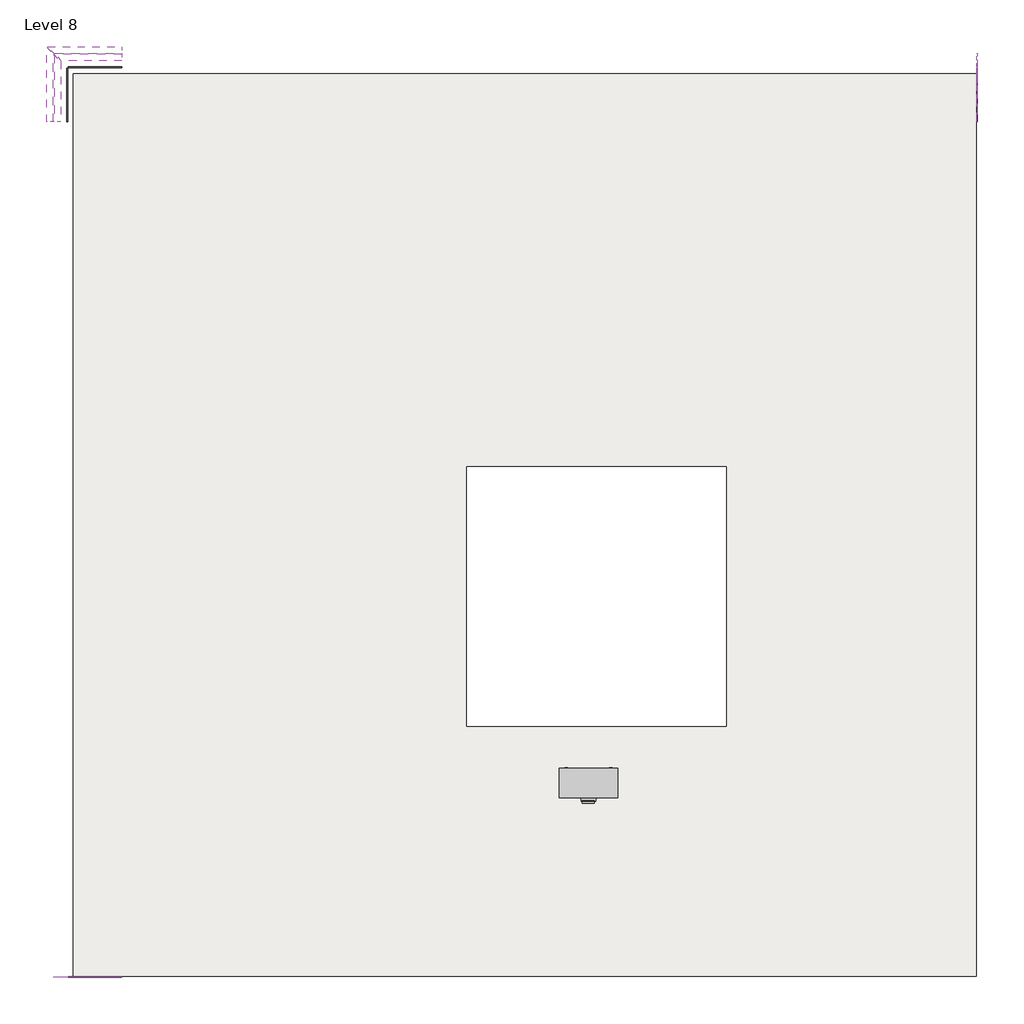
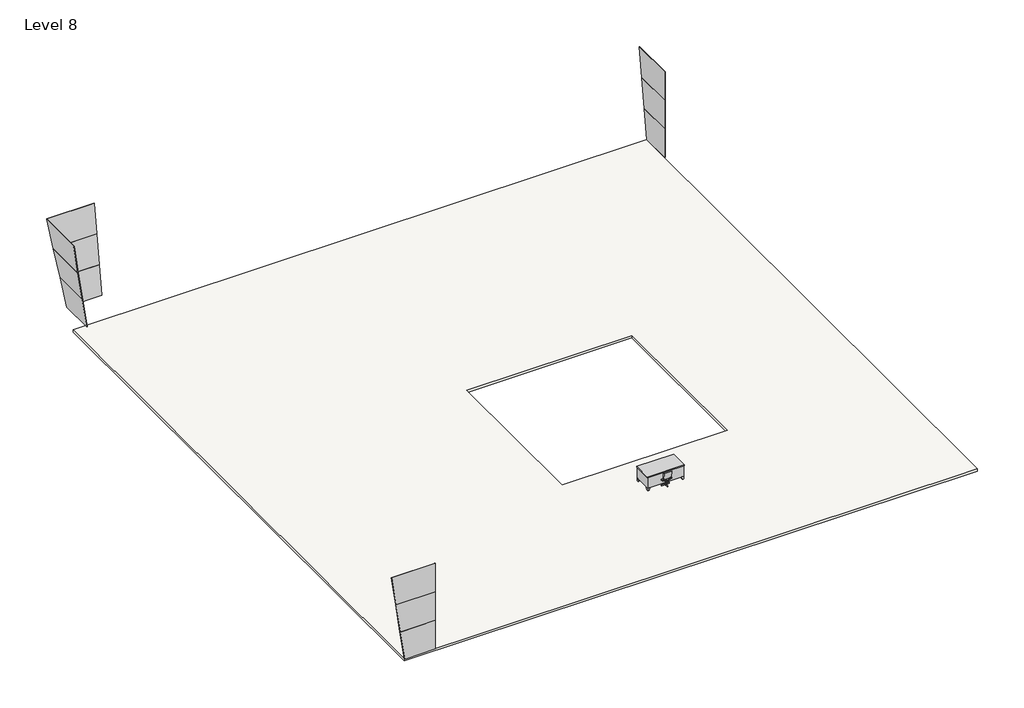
# One storey, incomplete: 12 plates, 2 furniture elements, 1 slab.
"""IFC4 building model written with IfcOpenShell, lengths in millimetres."""

from ifc_helpers import new_model, si_unit, frame, origin, place, context, project, spatial, polyline, outline, extrude, transform, mapped, element, save
from components import chair_desk_chair_desk_ccc35c8f, furniture_2fc54265, system_panel_glazed_32967763, system_panel_glazed_55f28718, system_panel_glazed_49c9d228, system_panel_glazed_35b88479, system_panel_glazed_5791ef04, system_panel_glazed_a518d741, system_panel_glazed_463c4953, system_panel_glazed_172627b4, system_panel_glazed_cb80e230, system_panel_glazed_8565c029, system_panel_glazed_069080fe, system_panel_glazed_b5e7a883

model = new_model("IFC4")

# Units and contexts
model_context = context("Model", 3, world=origin())
ifc_project = project(units=[si_unit("LENGTHUNIT", "METRE", prefix="MILLI")], contexts=[model_context])

# Site, building, storey
site = spatial("IfcSite", under=ifc_project)
building = spatial("IfcBuilding", under=site)
storey = spatial("IfcBuildingStorey", under=building, Name="Level 8", Elevation=32004.0)

# Furniture
placement = place(None, origin())
chair_desk_chair_desk_shape = chair_desk_chair_desk_ccc35c8f(model_context)
element("IfcFurniture", 1, ObjectType="Chair-Desk : Chair-Desk", at=placement, inside=storey, context=model_context, shape_type="MappedRepresentation", body=[
    mapped(chair_desk_chair_desk_shape, transform((-3928.2026957, -6947.9708988, 32004.0), x_axis=(1.0, 0.0, 0.0), y_axis=(0.0, 1.0, 0.0), z_axis=(0.0, 0.0, 1.0))),
])
furniture_shape = furniture_2fc54265(model_context)
element("IfcFurniture", 2, ObjectType="Desk : 72\" x 36\"", at=placement, inside=storey, context=model_context, shape_type="MappedRepresentation", body=[
    mapped(furniture_shape, transform((-4842.6026957, -6820.9708988, 32004.0), x_axis=(1.0, 0.0, 0.0), y_axis=(0.0, 1.0, 0.0), z_axis=(0.0, 0.0, 1.0))),
])

# Plates
system_panel_glazed_shape = system_panel_glazed_32967763(model_context)
element("IfcPlate", 3, ObjectType="System Panel : Glazed", at=placement, inside=storey, context=model_context, shape_type="MappedRepresentation", body=[
    mapped(system_panel_glazed_shape, transform((-19886.2242792, 16597.6269134, 33186.2347954), x_axis=(1.0, 0.0, 0.0), y_axis=(0.0, 0.9898065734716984, -0.1424182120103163), z_axis=(0.0, 0.1424182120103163, 0.9898065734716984))),
])
system_panel_glazed_2_shape = system_panel_glazed_55f28718(model_context)
element("IfcPlate", 4, ObjectType="System Panel : Glazed", at=placement, inside=storey, context=model_context, shape_type="MappedRepresentation", body=[
    mapped(system_panel_glazed_2_shape, transform((-19994.7469567, 16814.6722685, 34694.7000133), x_axis=(1.0, 0.0, 0.0), y_axis=(0.0, 0.9898065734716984, -0.1424182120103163), z_axis=(0.0, 0.1424182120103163, 0.9898065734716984))),
])
system_panel_glazed_3_shape = system_panel_glazed_49c9d228(model_context)
element("IfcPlate", 5, ObjectType="System Panel : Glazed", at=placement, inside=storey, context=model_context, shape_type="MappedRepresentation", body=[
    mapped(system_panel_glazed_3_shape, transform((-20103.2696343, 17031.7176236, 36203.1652313), x_axis=(1.0, 0.0, 0.0), y_axis=(0.0, 0.9898065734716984, -0.1424182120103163), z_axis=(0.0, 0.1424182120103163, 0.9898065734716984))),
])
system_panel_glazed_4_shape = system_panel_glazed_35b88479(model_context)
element("IfcPlate", 6, ObjectType="System Panel : Glazed", at=placement, inside=storey, context=model_context, shape_type="MappedRepresentation", body=[
    mapped(system_panel_glazed_4_shape, transform((-20641.2005079, 15842.650685, 33186.2347954), x_axis=(0.0, 1.0, 0.0), y_axis=(-0.9898065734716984, 0.0, -0.1424182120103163), z_axis=(-0.1424182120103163, 0.0, 0.9898065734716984))),
])
system_panel_glazed_5_shape = system_panel_glazed_5791ef04(model_context)
element("IfcPlate", 7, ObjectType="System Panel : Glazed", at=placement, inside=storey, context=model_context, shape_type="MappedRepresentation", body=[
    mapped(system_panel_glazed_5_shape, transform((-20858.245863, 15951.1733626, 34694.7000133), x_axis=(0.0, 1.0, 0.0), y_axis=(-0.9898065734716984, 0.0, -0.1424182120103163), z_axis=(-0.1424182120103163, 0.0, 0.9898065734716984))),
])
system_panel_glazed_6_shape = system_panel_glazed_a518d741(model_context)
element("IfcPlate", 8, ObjectType="System Panel : Glazed", at=placement, inside=storey, context=model_context, shape_type="MappedRepresentation", body=[
    mapped(system_panel_glazed_6_shape, transform((-21075.2912181, 16059.6960401, 36203.1652313), x_axis=(0.0, 1.0, 0.0), y_axis=(-0.9898065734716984, 0.0, -0.1424182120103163), z_axis=(-0.1424182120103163, 0.0, 0.9898065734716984))),
])
system_panel_glazed_7_shape = system_panel_glazed_463c4953(model_context)
element("IfcPlate", 9, ObjectType="System Panel : Glazed", at=placement, inside=storey, context=model_context, shape_type="MappedRepresentation", body=[
    mapped(system_panel_glazed_7_shape, transform((8517.7973043, 15758.7154319, 32004.0), x_axis=(0.0, -1.0, 0.0), y_axis=(1.0, 0.0, 0.0), z_axis=(0.0, 0.0, 1.0))),
])
system_panel_glazed_8_shape = system_panel_glazed_172627b4(model_context)
element("IfcPlate", 10, ObjectType="System Panel : Glazed", at=placement, inside=storey, context=model_context, shape_type="MappedRepresentation", body=[
    mapped(system_panel_glazed_8_shape, transform((8517.7973043, 15868.3557197, 33528.0), x_axis=(0.0, -1.0, 0.0), y_axis=(1.0, 0.0, 0.0), z_axis=(0.0, 0.0, 1.0))),
])
system_panel_glazed_9_shape = system_panel_glazed_cb80e230(model_context)
element("IfcPlate", 11, ObjectType="System Panel : Glazed", at=placement, inside=storey, context=model_context, shape_type="MappedRepresentation", body=[
    mapped(system_panel_glazed_9_shape, transform((8517.7973043, 15977.9960075, 35052.0), x_axis=(0.0, -1.0, 0.0), y_axis=(1.0, 0.0, 0.0), z_axis=(0.0, 0.0, 1.0))),
])
system_panel_glazed_10_shape = system_panel_glazed_8565c029(model_context)
element("IfcPlate", 12, ObjectType="System Panel : Glazed", at=placement, inside=storey, context=model_context, shape_type="MappedRepresentation", body=[
    mapped(system_panel_glazed_10_shape, transform((-19802.2890267, -12561.3708988, 32004.0), x_axis=(-1.0, 0.0, 0.0), y_axis=(0.0, -1.0, 0.0), z_axis=(0.0, 0.0, 1.0))),
])
system_panel_glazed_11_shape = system_panel_glazed_069080fe(model_context)
element("IfcPlate", 13, ObjectType="System Panel : Glazed", at=placement, inside=storey, context=model_context, shape_type="MappedRepresentation", body=[
    mapped(system_panel_glazed_11_shape, transform((-19911.9293145, -12561.3708988, 33528.0), x_axis=(-1.0, 0.0, 0.0), y_axis=(0.0, -1.0, 0.0), z_axis=(0.0, 0.0, 1.0))),
])
system_panel_glazed_12_shape = system_panel_glazed_b5e7a883(model_context)
element("IfcPlate", 14, ObjectType="System Panel : Glazed", at=placement, inside=storey, context=model_context, shape_type="MappedRepresentation", body=[
    mapped(system_panel_glazed_12_shape, transform((-20021.5696023, -12561.3708988, 35052.0), x_axis=(-1.0, 0.0, 0.0), y_axis=(0.0, -1.0, 0.0), z_axis=(0.0, 0.0, 1.0))),
])

# Slab
element("IfcSlab", 15, ObjectType="3\" LW Concrete on 2\" Metal Deck", at=placement, inside=storey, context=model_context, shape_type="SweptSolid", body=[
    extrude(outline(polyline([(-20471.094782, -12561.3708988), (-20471.094782, 16427.5211875), (8517.7973043, 16427.5211875), (8517.7973043, -12561.3708988), (-20471.094782, -12561.3708988)]), holes=[polyline([(-7844.5651957, 3800.9916012), (-7844.5651957, -4539.7333988), (496.1598043, -4539.7333988), (496.1598043, 3800.9916012), (-7844.5651957, 3800.9916012)])]), frame((0.0, 0.0, 31877.0), z_axis=(0.0, 0.0, 1.0), x_axis=(1.0, 0.0, 0.0)), (0.0, 0.0, 1.0), 127.0),
])

save(model, "model.ifc")
